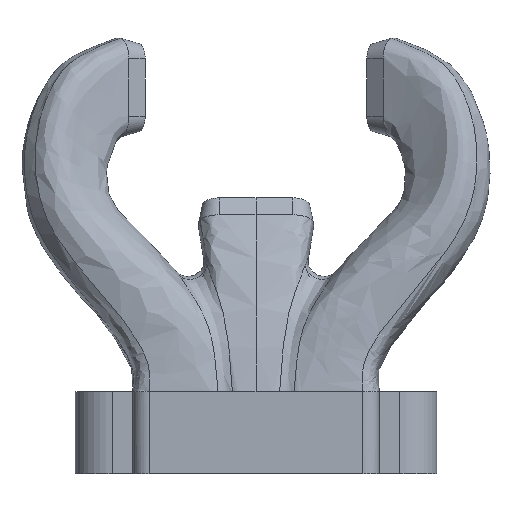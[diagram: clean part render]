
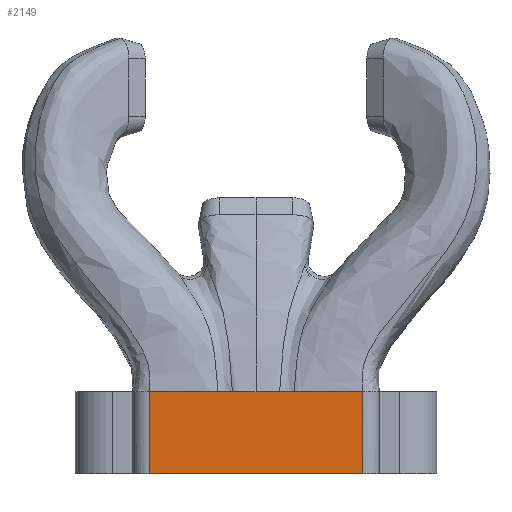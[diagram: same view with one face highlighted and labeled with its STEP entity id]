
A CAD part, front view. The second image highlights one B-rep face of the part: STEP entity #2149.
In plain terms, the highlighted planar face has unit normal (0, -1, 0) as drawn and (0, 1, 0) by its records, which use the part's own axes.
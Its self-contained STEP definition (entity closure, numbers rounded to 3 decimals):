
#73=PLANE('',#2280);
#136=FACE_OUTER_BOUND('',#258,.T.);
#258=EDGE_LOOP('',(#1524,#1525,#1526,#1527,#1528,#1529,#1530,#1531,#1532));
#376=LINE('',#2989,#541);
#381=LINE('',#10592,#546);
#391=LINE('',#20171,#556);
#401=LINE('',#20192,#566);
#402=LINE('',#20194,#567);
#403=LINE('',#20195,#568);
#404=LINE('',#20196,#569);
#405=LINE('',#20197,#570);
#406=LINE('',#20198,#571);
#541=VECTOR('',#2376,1000.);
#546=VECTOR('',#2387,10.);
#556=VECTOR('',#2397,10.);
#566=VECTOR('',#2411,10.);
#567=VECTOR('',#2412,10.);
#568=VECTOR('',#2413,1000.);
#569=VECTOR('',#2414,10.);
#570=VECTOR('',#2415,10.);
#571=VECTOR('',#2416,1000.);
#862=VERTEX_POINT('',#2986);
#863=VERTEX_POINT('',#2988);
#882=VERTEX_POINT('',#10576);
#884=VERTEX_POINT('',#10591);
#922=VERTEX_POINT('',#19390);
#937=VERTEX_POINT('',#20130);
#945=VERTEX_POINT('',#20190);
#946=VERTEX_POINT('',#20191);
#947=VERTEX_POINT('',#20193);
#1089=EDGE_CURVE('',#862,#863,#376,.T.);
#1112=EDGE_CURVE('',#884,#882,#381,.F.);
#1166=EDGE_CURVE('',#937,#922,#391,.F.);
#1176=EDGE_CURVE('',#945,#946,#401,.F.);
#1177=EDGE_CURVE('',#945,#947,#402,.F.);
#1178=EDGE_CURVE('',#884,#947,#403,.T.);
#1179=EDGE_CURVE('',#882,#863,#404,.T.);
#1180=EDGE_CURVE('',#922,#862,#405,.T.);
#1181=EDGE_CURVE('',#937,#946,#406,.T.);
#1524=ORIENTED_EDGE('',*,*,#1176,.F.);
#1525=ORIENTED_EDGE('',*,*,#1177,.T.);
#1526=ORIENTED_EDGE('',*,*,#1178,.F.);
#1527=ORIENTED_EDGE('',*,*,#1112,.T.);
#1528=ORIENTED_EDGE('',*,*,#1179,.T.);
#1529=ORIENTED_EDGE('',*,*,#1089,.F.);
#1530=ORIENTED_EDGE('',*,*,#1180,.F.);
#1531=ORIENTED_EDGE('',*,*,#1166,.F.);
#1532=ORIENTED_EDGE('',*,*,#1181,.T.);
#2149=ADVANCED_FACE('',(#136),#73,.T.);
#2280=AXIS2_PLACEMENT_3D('',#20189,#2409,#2410);
#2376=DIRECTION('',(1.,0.,0.));
#2387=DIRECTION('',(-1.,0.,0.));
#2397=DIRECTION('',(1.,0.,0.));
#2409=DIRECTION('center_axis',(0.,1.,0.));
#2410=DIRECTION('ref_axis',(-1.,0.,0.));
#2411=DIRECTION('',(1.,0.,0.));
#2412=DIRECTION('',(-1.,0.,0.));
#2413=DIRECTION('',(-1.,0.,0.));
#2414=DIRECTION('',(0.,0.,-1.));
#2415=DIRECTION('',(0.,0.,-1.));
#2416=DIRECTION('',(1.,0.,0.));
#2986=CARTESIAN_POINT('',(-13.,7.,-5.));
#2988=CARTESIAN_POINT('',(13.,7.,-5.));
#2989=CARTESIAN_POINT('',(-7.5,7.,-5.));
#10576=CARTESIAN_POINT('',(13.,7.,5.));
#10591=CARTESIAN_POINT('',(5.5,7.,5.));
#10592=CARTESIAN_POINT('',(13.,7.,5.));
#19390=CARTESIAN_POINT('',(-13.,7.,5.));
#20130=CARTESIAN_POINT('',(-5.5,7.,5.));
#20171=CARTESIAN_POINT('',(-13.,7.,5.));
#20189=CARTESIAN_POINT('Origin',(-7.5,7.,5.));
#20190=CARTESIAN_POINT('',(0.,7.,5.));
#20191=CARTESIAN_POINT('',(-2.,7.,5.));
#20192=CARTESIAN_POINT('',(-2.,7.,5.));
#20193=CARTESIAN_POINT('',(2.,7.,5.));
#20194=CARTESIAN_POINT('',(2.,7.,5.));
#20195=CARTESIAN_POINT('',(7.5,7.,5.));
#20196=CARTESIAN_POINT('',(13.,7.,0.));
#20197=CARTESIAN_POINT('',(-13.,7.,0.));
#20198=CARTESIAN_POINT('',(-7.5,7.,5.));
